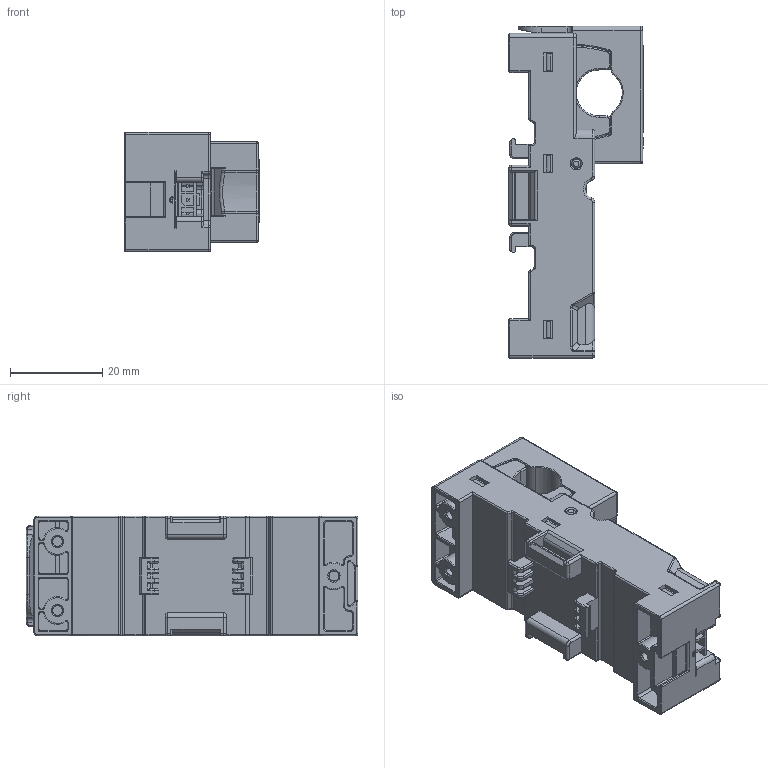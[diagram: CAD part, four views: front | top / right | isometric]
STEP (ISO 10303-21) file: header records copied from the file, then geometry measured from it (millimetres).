
FILE_DESCRIPTION(('Creo Elements/Direct Modeling STEP Export'),'2;1');
FILE_NAME('HTRS-3D customer.stp','2021-11-17T 9:15:05',(''),(''),'Creo Elements/Direct Modeling STEP processor for AP214 (Solid Model)','Creo Elements/Direct Modeling 20.1 10-Mar-2018 (C) Parametric Technology GmbH','');
FILE_SCHEMA(('AUTOMOTIVE_DESIGN { 1 0 10303 214 1 1 1 1 }'));
Length unit declared in the file: millimetre
Products named in the file (2): HTRS 3D customer
Assembly tree (1 placements, depth 2):
  HTRS 3D customer
    HTRS 3D customer
Bounding box: 29.1 x 72 x 26 mm (x, y, z)
Volume: 31028.6 mm3; surface area: 13138.4 mm2
Topology: 1 solids, 3 shells, 1177 faces, 3016 edges, 1856 vertices
Faces by surface type: plane 475, cylinder 446, torus 159, bspline 49, sphere 27, cone 19, extrusion 2
Entity records: 42767 total; most frequent: CARTESIAN_POINT 14488, ORIENTED_EDGE 5982, DIRECTION 5673, EDGE_CURVE 2990, AXIS2_PLACEMENT_3D 2015, VERTEX_POINT 1856, VECTOR 1643, LINE 1641
